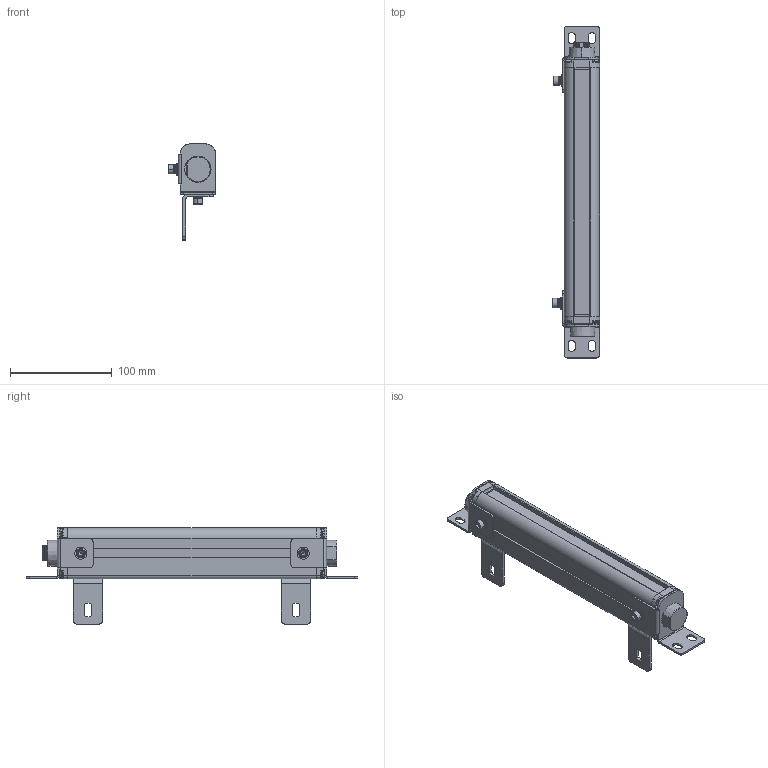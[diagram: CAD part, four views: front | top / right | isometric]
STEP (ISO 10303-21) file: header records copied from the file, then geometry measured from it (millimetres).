
FILE_DESCRIPTION((''),'2;1');
FILE_NAME('ESN--000_ASM','2021-08-11T15:52:15',('18720616900'),(''),'CREO PARAMETRIC BY PTC INC, 2019010','CREO PARAMETRIC BY PTC INC, 2019010','');
FILE_SCHEMA(('CONFIG_CONTROL_DESIGN'));
Products named in the file (22): 00; 000; _0002; _0003; _0004; 5000; 5--0001; ESN_50001_ASM; ST-3-120001; L10001; M6-8--0001; M6-1--00; M6-1-00; M6-80001_ASM; L1--0001_ASM; H1--000; H1--0003_ASM; H1--0001_ASM; ESN--000_ASM
Assembly tree (35 placements, depth 4):
  ESN--000_ASM
    00
    000
    _0002
    _0003
    _0004
    000
    ESN_50001_ASM
      5000
      5--0001  x5
    ST-3-120001  x8
    L1--0001_ASM  x2
      L10001
      M6-80001_ASM
        M6-8--0001
        M6-1--00
        M6-1-00
        00
    H1--0003_ASM
      H1--000
      M6-80001_ASM
        M6-8--0001
        M6-1--00
        M6-1-00
        00
    H1--0001_ASM
      H1--000
      M6-80001_ASM
        M6-8--0001
        M6-1--00
        M6-1-00
        00
Bounding box: 46.5 x 327 x 94.95 mm (x, y, z)
Volume: 421790.6 mm3; surface area: 121303.5 mm2
Topology: 40 solids, 40 shells, 1785 faces, 4708 edges, 3012 vertices
Faces by surface type: plane 583, cylinder 416, bspline 362, cone 291, torus 107, sphere 26
Entity records: 48222 total; most frequent: CARTESIAN_POINT 24957, ORIENTED_EDGE 5136, DIRECTION 4189, EDGE_CURVE 2568, VERTEX_POINT 1669, AXIS2_PLACEMENT_3D 1488, VECTOR 1213, LINE 1213
